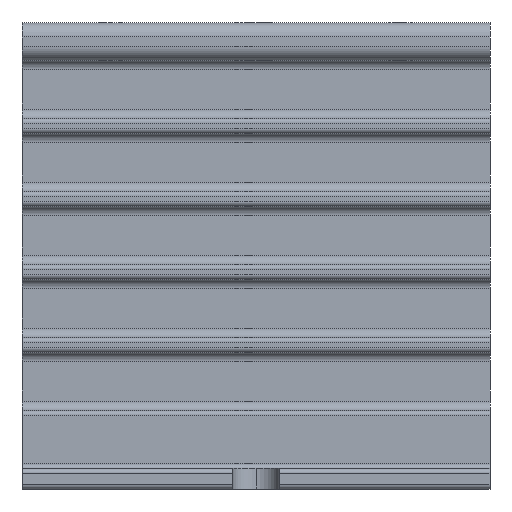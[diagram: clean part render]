
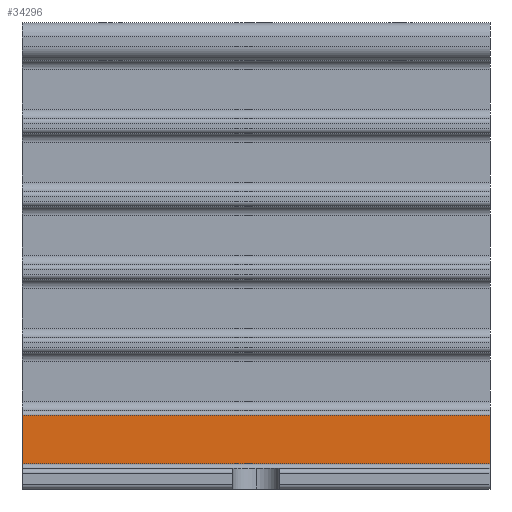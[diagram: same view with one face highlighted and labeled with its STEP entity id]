
A CAD part, front view. The second image highlights one B-rep face of the part: STEP entity #34296.
In plain terms, the highlighted planar face has unit normal (0, -1, 0).
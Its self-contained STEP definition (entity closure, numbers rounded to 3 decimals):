
#201 = EDGE_CURVE ( 'NONE', #12645, #7895, #1126, .T. ) ;
#1126 = LINE ( 'NONE', #23751, #7436 ) ;
#4653 = CARTESIAN_POINT ( 'NONE',  ( 0., 10.5, 7.9 ) ) ;
#4813 = ORIENTED_EDGE ( 'NONE', *, *, #201, .F. ) ;
#5480 = ORIENTED_EDGE ( 'NONE', *, *, #17924, .F. ) ;
#6566 = CARTESIAN_POINT ( 'NONE',  ( 50., 10.5, 2.7 ) ) ;
#6612 = CARTESIAN_POINT ( 'NONE',  ( 0., 10.5, 7.9 ) ) ;
#7436 = VECTOR ( 'NONE', #35530, 1000. ) ;
#7713 = VERTEX_POINT ( 'NONE', #35724 ) ;
#7871 = CARTESIAN_POINT ( 'NONE',  ( 0., 10.5, 2.7 ) ) ;
#7895 = VERTEX_POINT ( 'NONE', #26402 ) ;
#12645 = VERTEX_POINT ( 'NONE', #6612 ) ;
#13777 = PLANE ( 'NONE',  #28040 ) ;
#13839 = DIRECTION ( 'NONE',  ( 0., 0., 1. ) ) ;
#16078 = VECTOR ( 'NONE', #19276, 1000. ) ;
#16686 = ORIENTED_EDGE ( 'NONE', *, *, #31160, .F. ) ;
#16820 = FACE_OUTER_BOUND ( 'NONE', #23921, .T. ) ;
#17924 = EDGE_CURVE ( 'NONE', #7713, #12645, #33148, .T. ) ;
#19076 = CARTESIAN_POINT ( 'NONE',  ( 0., 10.5, 48.3 ) ) ;
#19276 = DIRECTION ( 'NONE',  ( -1., 0., 0. ) ) ;
#22206 = LINE ( 'NONE', #33798, #32784 ) ;
#23751 = CARTESIAN_POINT ( 'NONE',  ( 0., 10.5, 7.9 ) ) ;
#23921 = EDGE_LOOP ( 'NONE', ( #4813, #5480, #16686, #34523 ) ) ;
#24096 = EDGE_CURVE ( 'NONE', #31006, #7895, #22206, .T. ) ;
#26402 = CARTESIAN_POINT ( 'NONE',  ( 50., 10.5, 7.9 ) ) ;
#27838 = LINE ( 'NONE', #7871, #16078 ) ;
#28040 = AXIS2_PLACEMENT_3D ( 'NONE', #4653, #30890, #28425 ) ;
#28425 = DIRECTION ( 'NONE',  ( -1., 0., 0. ) ) ;
#30258 = VECTOR ( 'NONE', #30681, 1000. ) ;
#30681 = DIRECTION ( 'NONE',  ( 0., 0., 1. ) ) ;
#30890 = DIRECTION ( 'NONE',  ( 0., 1., 0. ) ) ;
#31006 = VERTEX_POINT ( 'NONE', #6566 ) ;
#31160 = EDGE_CURVE ( 'NONE', #31006, #7713, #27838, .T. ) ;
#32784 = VECTOR ( 'NONE', #13839, 1000. ) ;
#33148 = LINE ( 'NONE', #19076, #30258 ) ;
#33798 = CARTESIAN_POINT ( 'NONE',  ( 50., 10.5, 7.9 ) ) ;
#34296 = ADVANCED_FACE ( 'NONE', ( #16820 ), #13777, .F. ) ;
#34523 = ORIENTED_EDGE ( 'NONE', *, *, #24096, .T. ) ;
#35530 = DIRECTION ( 'NONE',  ( 1., 0., 0. ) ) ;
#35724 = CARTESIAN_POINT ( 'NONE',  ( 0., 10.5, 2.7 ) ) ;
